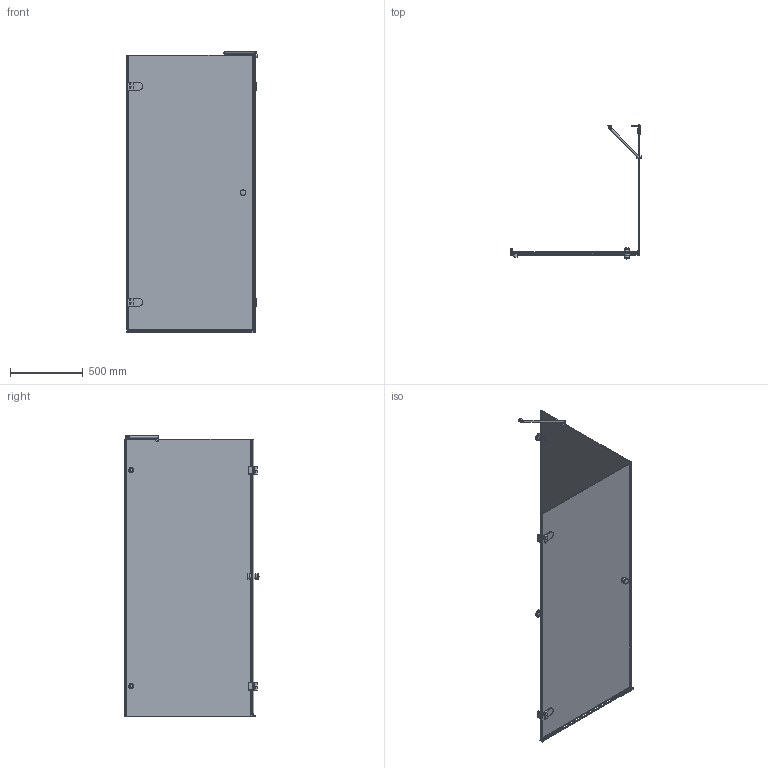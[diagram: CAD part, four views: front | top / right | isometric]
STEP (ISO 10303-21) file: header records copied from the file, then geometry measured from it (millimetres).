
FILE_DESCRIPTION(/* description */ (''),/* implementation_level */ '2;1');
FILE_NAME(/* name */ 'E:\Работа\Сергей\Душевые кабинки\! Работа\!!!!\LUX SQUARE GK-001\LUX SQUARE GK-001 левая модель\LUX SQUARE GK-001 ЛЕВАЯ-3D.stp',/* time_stamp */ '2018-02-08T18:40:57+03:00',/* author */ ('PC'),/* organization */ (''),/* preprocessor_version */ 'ST-DEVELOPER v15.2',/* originating_system */ 'Autodesk Inventor 2014',/* authorisation */ '');
FILE_SCHEMA (('AUTOMOTIVE_DESIGN { 1 0 10303 214 3 1 1 }'));
Length unit declared in the file: millimetre
Products named in the file (1): LUX SQUARE GK-001 ЛЕВАЯ-3D
Bounding box: 893.5 x 918 x 1931.49 mm (x, y, z)
Volume: 20732926.7 mm3; surface area: 6980608 mm2
Topology: 5 solids, 7 shells, 570 faces, 1491 edges, 952 vertices
Faces by surface type: plane 389, cylinder 145, torus 19, bspline 8, sphere 7, cone 2
Full cylindrical faces by diameter (mm): 12 x1, 15 x1, 20 x2, 26 x1, 30 x2, 35 x2, 38 x4, 40 x2
Entity records: 18190 total; most frequent: CARTESIAN_POINT 3571, ORIENTED_EDGE 2904, DIRECTION 2887, EDGE_CURVE 1452, LINE 1051, VECTOR 1051, VERTEX_POINT 940, AXIS2_PLACEMENT_3D 918
